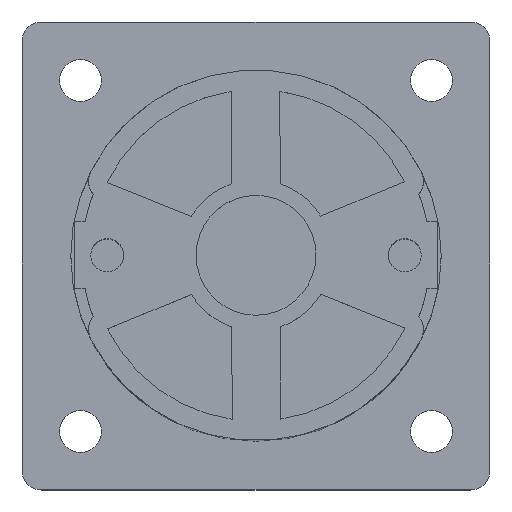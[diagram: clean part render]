
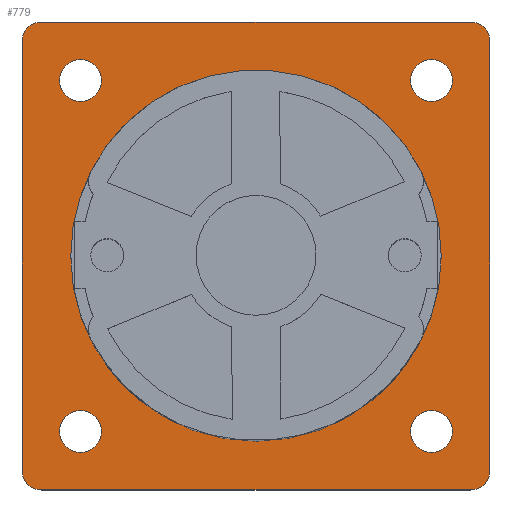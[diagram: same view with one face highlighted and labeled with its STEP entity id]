
A CAD part, top view. The second image highlights one B-rep face of the part: STEP entity #779.
In plain terms, the highlighted planar face has unit normal (0, 0, 1).
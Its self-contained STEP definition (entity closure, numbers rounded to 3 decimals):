
#241=FACE_BOUND('',#1915,.T.);
#242=FACE_BOUND('',#1916,.T.);
#243=FACE_BOUND('',#1917,.T.);
#244=FACE_BOUND('',#1918,.T.);
#245=FACE_BOUND('',#1919,.T.);
#246=FACE_BOUND('',#1920,.T.);
#378=CIRCLE('',#7584,2.15);
#382=CIRCLE('',#7591,2.15);
#386=CIRCLE('',#7598,2.15);
#390=CIRCLE('',#7605,2.15);
#399=CIRCLE('',#7623,19.);
#444=CIRCLE('',#7718,2.);
#445=CIRCLE('',#7720,2.);
#446=CIRCLE('',#7722,2.);
#447=CIRCLE('',#7724,2.);
#779=ADVANCED_FACE('',(#241,#242,#243,#244,#245,#246),#1154,.F.);
#1154=PLANE('',#7731);
#1915=EDGE_LOOP('',(#2894,#2895,#2896,#2897,#2898,#2899,#2900,#2901));
#1916=EDGE_LOOP('',(#2902));
#1917=EDGE_LOOP('',(#2903));
#1918=EDGE_LOOP('',(#2904));
#1919=EDGE_LOOP('',(#2905));
#1920=EDGE_LOOP('',(#2906));
#2894=ORIENTED_EDGE('',*,*,#5430,.F.);
#2895=ORIENTED_EDGE('',*,*,#5417,.F.);
#2896=ORIENTED_EDGE('',*,*,#5427,.F.);
#2897=ORIENTED_EDGE('',*,*,#5420,.F.);
#2898=ORIENTED_EDGE('',*,*,#5428,.F.);
#2899=ORIENTED_EDGE('',*,*,#5423,.F.);
#2900=ORIENTED_EDGE('',*,*,#5429,.F.);
#2901=ORIENTED_EDGE('',*,*,#5426,.F.);
#2902=ORIENTED_EDGE('',*,*,#5286,.F.);
#2903=ORIENTED_EDGE('',*,*,#5249,.T.);
#2904=ORIENTED_EDGE('',*,*,#5245,.T.);
#2905=ORIENTED_EDGE('',*,*,#5241,.T.);
#2906=ORIENTED_EDGE('',*,*,#5237,.T.);
#4484=VERTEX_POINT('',#10627);
#4488=VERTEX_POINT('',#10638);
#4492=VERTEX_POINT('',#10649);
#4496=VERTEX_POINT('',#10660);
#4529=VERTEX_POINT('',#10731);
#4618=VERTEX_POINT('',#10999);
#4619=VERTEX_POINT('',#11001);
#4620=VERTEX_POINT('',#11005);
#4621=VERTEX_POINT('',#11007);
#4622=VERTEX_POINT('',#11011);
#4623=VERTEX_POINT('',#11013);
#4624=VERTEX_POINT('',#11017);
#4625=VERTEX_POINT('',#11019);
#5237=EDGE_CURVE('',#4484,#4484,#378,.T.);
#5241=EDGE_CURVE('',#4488,#4488,#382,.T.);
#5245=EDGE_CURVE('',#4492,#4492,#386,.T.);
#5249=EDGE_CURVE('',#4496,#4496,#390,.T.);
#5286=EDGE_CURVE('',#4529,#4529,#399,.T.);
#5417=EDGE_CURVE('',#4619,#4618,#444,.T.);
#5420=EDGE_CURVE('',#4621,#4620,#445,.T.);
#5423=EDGE_CURVE('',#4623,#4622,#446,.T.);
#5426=EDGE_CURVE('',#4625,#4624,#447,.T.);
#5427=EDGE_CURVE('',#4620,#4619,#6332,.T.);
#5428=EDGE_CURVE('',#4622,#4621,#6333,.T.);
#5429=EDGE_CURVE('',#4624,#4623,#6334,.T.);
#5430=EDGE_CURVE('',#4618,#4625,#6335,.T.);
#6332=LINE('',#11022,#7017);
#6333=LINE('',#11024,#7018);
#6334=LINE('',#11026,#7019);
#6335=LINE('',#11028,#7020);
#7017=VECTOR('',#8924,1.);
#7018=VECTOR('',#8927,1.);
#7019=VECTOR('',#8930,1.);
#7020=VECTOR('',#8933,1.);
#7584=AXIS2_PLACEMENT_3D('',#10626,#8528,#8529);
#7591=AXIS2_PLACEMENT_3D('',#10637,#8542,#8543);
#7598=AXIS2_PLACEMENT_3D('',#10648,#8556,#8557);
#7605=AXIS2_PLACEMENT_3D('',#10659,#8570,#8571);
#7623=AXIS2_PLACEMENT_3D('',#10730,#8626,#8627);
#7718=AXIS2_PLACEMENT_3D('',#11002,#8902,#8903);
#7720=AXIS2_PLACEMENT_3D('',#11008,#8908,#8909);
#7722=AXIS2_PLACEMENT_3D('',#11014,#8914,#8915);
#7724=AXIS2_PLACEMENT_3D('',#11020,#8920,#8921);
#7731=AXIS2_PLACEMENT_3D('',#11031,#8938,#8939);
#8528=DIRECTION('',(0.,0.,-1.));
#8529=DIRECTION('',(-1.,0.,0.));
#8542=DIRECTION('',(0.,0.,-1.));
#8543=DIRECTION('',(-1.,0.,0.));
#8556=DIRECTION('',(0.,0.,-1.));
#8557=DIRECTION('',(-1.,0.,0.));
#8570=DIRECTION('',(0.,0.,-1.));
#8571=DIRECTION('',(-1.,0.,0.));
#8626=DIRECTION('',(0.,0.,1.));
#8627=DIRECTION('',(-1.,0.,0.));
#8902=DIRECTION('',(0.,0.,-1.));
#8903=DIRECTION('',(1.,0.,0.));
#8908=DIRECTION('',(0.,0.,-1.));
#8909=DIRECTION('',(1.,0.,0.));
#8914=DIRECTION('',(0.,0.,-1.));
#8915=DIRECTION('',(1.,0.,0.));
#8920=DIRECTION('',(0.,0.,-1.));
#8921=DIRECTION('',(1.,0.,0.));
#8924=DIRECTION('',(0.,-1.,0.));
#8927=DIRECTION('',(1.,0.,0.));
#8930=DIRECTION('',(0.,1.,0.));
#8933=DIRECTION('',(-1.,0.,0.));
#8938=DIRECTION('',(0.,0.,-1.));
#8939=DIRECTION('',(-1.,0.,0.));
#10626=CARTESIAN_POINT('',(18.,-18.,2.5));
#10627=CARTESIAN_POINT('',(15.85,-18.,2.5));
#10637=CARTESIAN_POINT('',(18.,18.,2.5));
#10638=CARTESIAN_POINT('',(15.85,18.,2.5));
#10648=CARTESIAN_POINT('',(-18.,18.,2.5));
#10649=CARTESIAN_POINT('',(-20.15,18.,2.5));
#10659=CARTESIAN_POINT('',(-18.,-18.,2.5));
#10660=CARTESIAN_POINT('',(-20.15,-18.,2.5));
#10730=CARTESIAN_POINT('',(0.,0.,2.5));
#10731=CARTESIAN_POINT('',(-19.,0.,2.5));
#10999=CARTESIAN_POINT('',(22.,-24.,2.5));
#11001=CARTESIAN_POINT('',(24.,-22.,2.5));
#11002=CARTESIAN_POINT('',(22.,-22.,2.5));
#11005=CARTESIAN_POINT('',(24.,22.,2.5));
#11007=CARTESIAN_POINT('',(22.,24.,2.5));
#11008=CARTESIAN_POINT('',(22.,22.,2.5));
#11011=CARTESIAN_POINT('',(-22.,24.,2.5));
#11013=CARTESIAN_POINT('',(-24.,22.,2.5));
#11014=CARTESIAN_POINT('',(-22.,22.,2.5));
#11017=CARTESIAN_POINT('',(-24.,-22.,2.5));
#11019=CARTESIAN_POINT('',(-22.,-24.,2.5));
#11020=CARTESIAN_POINT('',(-22.,-22.,2.5));
#11022=CARTESIAN_POINT('',(24.,22.,2.5));
#11024=CARTESIAN_POINT('',(-22.,24.,2.5));
#11026=CARTESIAN_POINT('',(-24.,-22.,2.5));
#11028=CARTESIAN_POINT('',(22.,-24.,2.5));
#11031=CARTESIAN_POINT('',(-22.,-22.,2.5));
